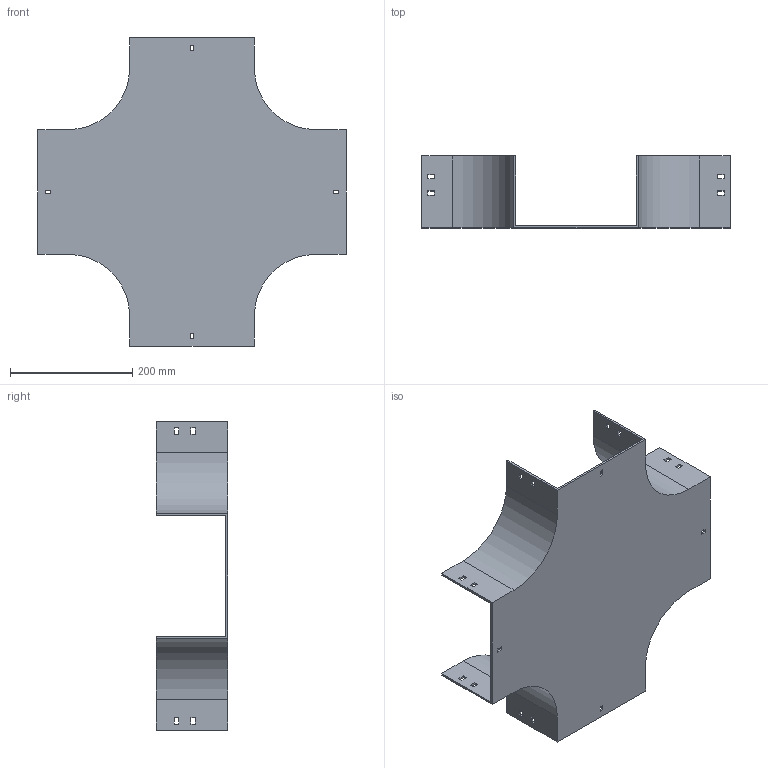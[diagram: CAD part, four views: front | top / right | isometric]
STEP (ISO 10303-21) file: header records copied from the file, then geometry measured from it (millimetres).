
FILE_DESCRIPTION (( 'STEP AP214' ), '1' );
FILE_NAME ('17B1J200.step', '2025-02-21T09:56:38', ( '' ), ( '' ), 'SwSTEP 2.0', 'SolidWorks 2023', '' );
FILE_SCHEMA (( 'AUTOMOTIVE_DESIGN' ));
Length unit declared in the file: millimetre
Products named in the file (1): 17B1J200
Bounding box: 504 x 117.5 x 504 mm (x, y, z)
Volume: 1014047.6 mm3; surface area: 591440.9 mm2
Topology: 1 solids, 1 shells, 114 faces, 336 edges, 224 vertices
Faces by surface type: plane 106, cylinder 8
Entity records: 3839 total; most frequent: CARTESIAN_POINT 675, ORIENTED_EDGE 672, DIRECTION 582, EDGE_CURVE 336, VECTOR 320, LINE 320, VERTEX_POINT 224, EDGE_LOOP 154
